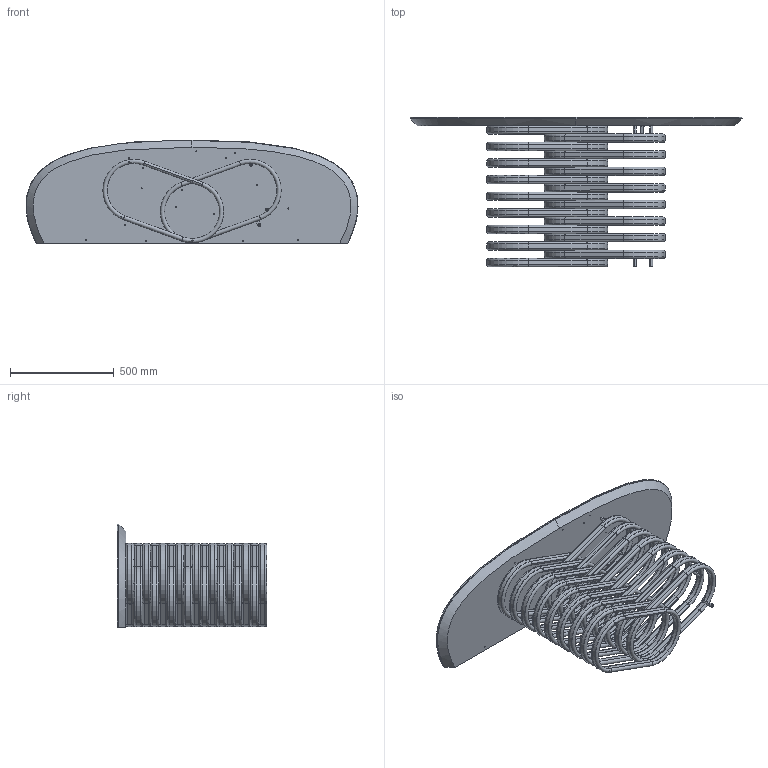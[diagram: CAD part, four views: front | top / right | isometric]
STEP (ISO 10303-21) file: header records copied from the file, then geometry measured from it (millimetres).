
FILE_DESCRIPTION (( 'STEP AP203' ), '1' );
FILE_NAME ('RO60G.STEP', '2024-08-06T10:02:36', ( '' ), ( '' ), 'SwSTEP 2.0', 'SolidWorks 2022', '' );
FILE_SCHEMA (( 'CONFIG_CONTROL_DESIGN' ));
Length unit declared in the file: millimetre
Products named in the file (11): ROC000000-00-CONSOLLE ROTOLO BASE STRUTTURA; RO60G; ROC000000_01-00-anello rotolo console SOPRA_Default<A macchina>; CXXXX-00-piani CRISTALLO Sasso per console_160X50; ROC000000_03-00-anello rotolo console MEDIO_Default<A macchina>; TRU000XXX-01-Sottopiano per ceramica_160x50<A macchina>; CXXXX-00-piani CRISTALLO Sasso per console_160x50; ROC000000_02-00-anello rotolo console SOTTO_Default<A macchina>; ROC000001PSx-00-CONSOLEE ROTOLO PIASTRA FISSAGGIO_STAFFA LUNGA; ROC000000_0X-00-anello rotolo console CIlindri SUP_INF_SUPERIORE; ROC000000_0X-00-anello rotolo console CIlindri SUP_INF_INFERIORE<A macchina>
Assembly tree (22 placements, depth 3):
  RO60G
    CXXXX-00-piani CRISTALLO Sasso per console_160X50
      CXXXX-00-piani CRISTALLO Sasso per console_160x50
      TRU000XXX-01-Sottopiano per ceramica_160x50<A macchina>
    ROC000000-00-CONSOLLE ROTOLO BASE STRUTTURA
      ROC000000_02-00-anello rotolo console SOTTO_Default<A macchina>
      ROC000000_03-00-anello rotolo console MEDIO_Default<A macchina>  x13
      ROC000000_01-00-anello rotolo console SOPRA_Default<A macchina>
      ROC000000_0X-00-anello rotolo console CIlindri SUP_INF_INFERIORE<A macchina>
      ROC000000_0X-00-anello rotolo console CIlindri SUP_INF_SUPERIORE
    ROC000001PSx-00-CONSOLEE ROTOLO PIASTRA FISSAGGIO_STAFFA LUNGA
Bounding box: 1599.92 x 721.01 x 500 mm (x, y, z)
Volume: 32959924.3 mm3; surface area: 7876616.5 mm2
Topology: 75 solids, 75 shells, 872 faces, 2119 edges, 1373 vertices
Faces by surface type: cylinder 386, plane 300, torus 136, cone 44, bspline 6
Entity records: 14243 total; most frequent: CARTESIAN_POINT 3922, DIRECTION 1996, ORIENTED_EDGE 1702, EDGE_CURVE 851, AXIS2_PLACEMENT_3D 791, VERTEX_POINT 557, EDGE_LOOP 444, LINE 414
